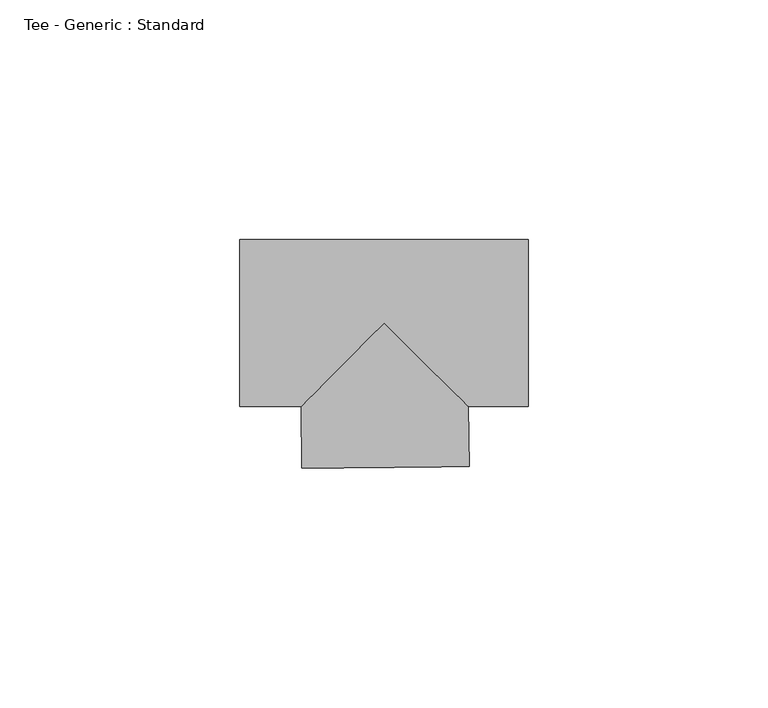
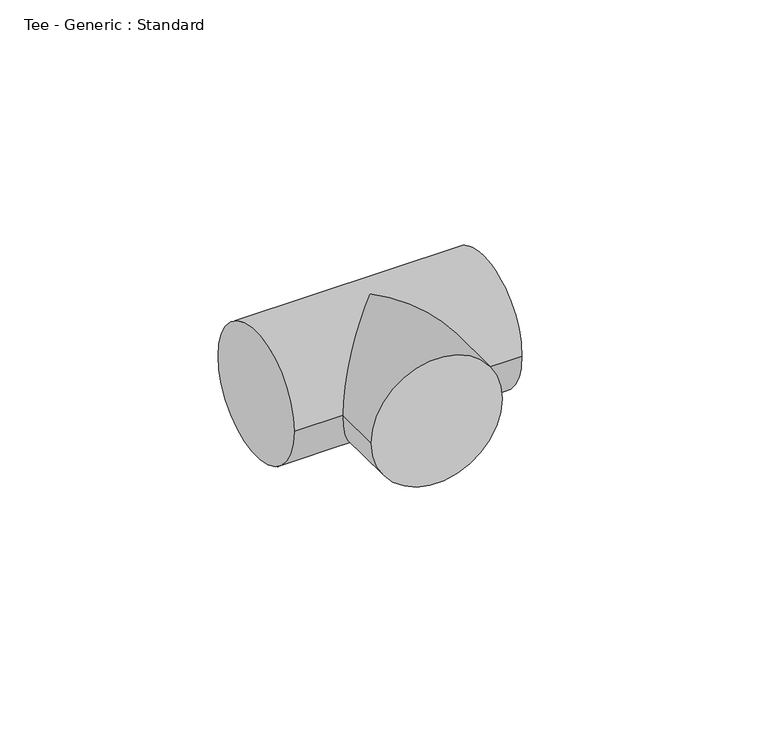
"""IFC4 building model written with IfcOpenShell, lengths in millimetres: pipe fitting geometry, Tee - Generic : Standard."""

from ifc_helpers import new_model, si_unit, frame, origin, place, context, project, spatial, circle_curve, ellipse_curve, source, transform, mapped, element, save
from ifc_brep_helpers import plane_surface, cylinder_surface, advanced_brep


def tee_generic_standard_3c2e5b31(model_context):
    return source(origin(), model_context, "Body", "AdvancedBrep", [
        advanced_brep(
        [(-30.1625, -17.4625, 0.0), (-30.1625, 17.4625, 0.0), (30.1625, -17.4625, 0.0), (30.1625, 17.4625, 0.0), (-17.2909542, -17.4625, 0.0), (0.0, 0.0, 17.4625), (17.6357477, -17.4625, 0.0), (0.0, 0.0, -17.4625), (-17.1638874, -30.3334186, 0.0), (17.7594108, -29.9886419, 0.0)],
        [
            (0, 1, circle_curve(frame((-30.1625, 0.0, 0.0), z_axis=(-1.0, 0.0, 0.0), x_axis=(0.0, 1.0, 0.0)), 17.4625)),
            (1, 0, circle_curve(frame((-30.1625, 0.0, 0.0), z_axis=(-1.0, 0.0, 0.0), x_axis=(0.0, 1.0, 0.0)), 17.4625)),
            (2, 3, circle_curve(frame((30.1625, 0.0, 0.0), z_axis=(1.0, 0.0, 0.0), x_axis=(0.0, 1.0, 0.0)), 17.4625)),
            (3, 2, circle_curve(frame((30.1625, 0.0, 0.0), z_axis=(1.0, 0.0, 0.0), x_axis=(0.0, 1.0, 0.0)), 17.4625)),
            (0, 4),
            (4, 5, ellipse_curve(frame((0.0, 0.0, 0.0), z_axis=(-0.7105884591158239, 0.7036078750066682, 0.0), x_axis=(-0.7036078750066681, -0.7105884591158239, 0.0)), 24.5747025, 17.4625)),
            (5, 6, ellipse_curve(frame((0.0, 0.0, 0.0), z_axis=(0.7036078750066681, 0.710588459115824, 0.0), x_axis=(-0.7105884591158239, 0.7036078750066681, 0.0)), 24.8185113, 17.4625)),
            (6, 2),
            (3, 1),
            (6, 7, ellipse_curve(frame((0.0, 0.0, 0.0), z_axis=(0.7036078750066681, 0.710588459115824, 0.0), x_axis=(-0.7105884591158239, 0.7036078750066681, 0.0)), 24.8185113, 17.4625)),
            (7, 4, ellipse_curve(frame((0.0, 0.0, 0.0), z_axis=(-0.7105884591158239, 0.7036078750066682, 0.0), x_axis=(-0.7036078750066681, -0.7105884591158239, 0.0)), 24.5747025, 17.4625)),
            (8, 9, circle_curve(frame((0.2977617, -30.1610302, 0.0), z_axis=(0.009871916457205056, -0.999951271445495, 0.0), x_axis=(0.999951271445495, 0.009871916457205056, 0.0)), 17.4625)),
            (9, 8, circle_curve(frame((0.2977617, -30.1610302, 0.0), z_axis=(0.009871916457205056, -0.999951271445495, 0.0), x_axis=(0.999951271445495, 0.009871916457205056, 0.0)), 17.4625)),
            (9, 6),
            (4, 8),
        ],
        [
            plane_surface(frame((-30.1625, 0.0, 0.0), z_axis=(-1.0, 0.0, 0.0), x_axis=(0.0, 0.0, 1.0))),
            plane_surface(frame((30.1625, 0.0, 0.0), z_axis=(1.0, 0.0, 0.0), x_axis=(0.0, 0.0, 1.0))),
            cylinder_surface(frame((-30.1625, 0.0, 0.0), z_axis=(-1.0, 0.0, 0.0), x_axis=(0.0, 1.0, 0.0)), 17.4625),
            plane_surface(frame((0.2977617, -30.1610302, 0.0), z_axis=(0.009871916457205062, -0.999951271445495, 0.0), x_axis=(0.0, 0.0, 1.0))),
            cylinder_surface(frame((0.0, 0.0, 0.0), z_axis=(-0.009871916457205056, 0.999951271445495, 0.0), x_axis=(0.999951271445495, 0.009871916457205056, 0.0)), 17.4625),
        ],
        [
            (0, [[1, 2]]),
            (1, [[3, 4]]),
            (2, [[-1, 5, 6, 7, 8, -4, 9]]),
            (2, [[-2, -9, -3, -8, 10, 11, -5]]),
            (3, [[12, 13]]),
            (4, [[-13, 14, -7, -6, 15]]),
            (4, [[-12, -15, -11, -10, -14]]),
        ],
    ),
    ])


if __name__ == "__main__":
    model = new_model("IFC4")
    model_context = context("Model", 3, world=origin())
    ifc_project = project(units=[si_unit("LENGTHUNIT", "METRE", prefix="MILLI")], contexts=[model_context])
    site = spatial("IfcSite", under=ifc_project)
    building = spatial("IfcBuilding", under=site)
    placement = place(None, origin())
    tee_generic_standard_shape = tee_generic_standard_3c2e5b31(model_context)
    element("IfcPipeFitting", 1, ObjectType="Tee - Generic : Standard", at=placement, inside=building, context=model_context, shape_type="MappedRepresentation", body=[
        mapped(tee_generic_standard_shape, transform((0.0, 0.0, 0.0), x_axis=(1.0, 0.0, 0.0), y_axis=(0.0, 1.0, 0.0), z_axis=(0.0, 0.0, 1.0))),
    ])
    save(model, "model.ifc")
